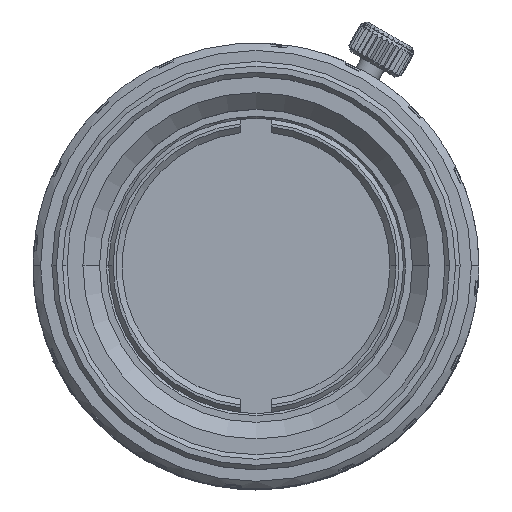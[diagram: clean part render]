
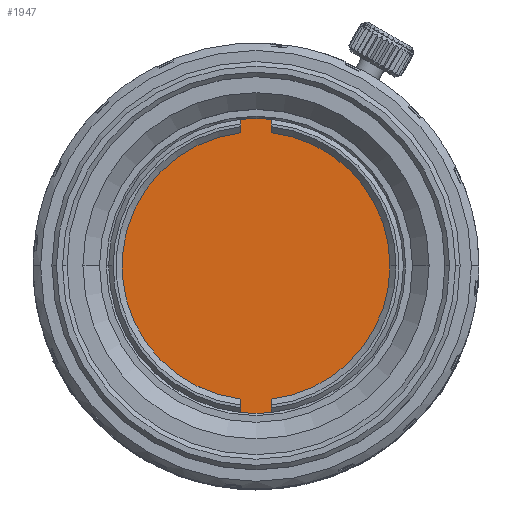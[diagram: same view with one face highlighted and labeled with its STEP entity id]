
A CAD part, top view. The second image highlights one B-rep face of the part: STEP entity #1947.
In plain terms, the highlighted planar face has unit normal (0, 0, 1).
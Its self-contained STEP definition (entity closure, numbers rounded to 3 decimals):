
#31 = CIRCLE ( 'NONE', #1134, 9.745 ) ;
#628 = VERTEX_POINT ( 'NONE', #19634 ) ;
#1134 = AXIS2_PLACEMENT_3D ( 'NONE', #12131, #26912, #14290 ) ;
#1154 = CARTESIAN_POINT ( 'NONE',  ( -1., -8.807, 59.484 ) ) ;
#1947 = ADVANCED_FACE ( 'NONE', ( #25048 ), #9934, .T. ) ;
#2133 = LINE ( 'NONE', #26476, #13768 ) ;
#2199 = CARTESIAN_POINT ( 'NONE',  ( -1., 9.694, 59.484 ) ) ;
#2550 = EDGE_CURVE ( 'NONE', #628, #27368, #10705, .T. ) ;
#2774 = DIRECTION ( 'NONE',  ( 0., -1., 0. ) ) ;
#2784 = VERTEX_POINT ( 'NONE', #6970 ) ;
#2990 = CARTESIAN_POINT ( 'NONE',  ( -1., -9.694, 59.484 ) ) ;
#3333 = VERTEX_POINT ( 'NONE', #2199 ) ;
#3922 = CARTESIAN_POINT ( 'NONE',  ( 0., 0., 59.484 ) ) ;
#4958 = CARTESIAN_POINT ( 'NONE',  ( 1., 0., 59.484 ) ) ;
#5304 = CIRCLE ( 'NONE', #18728, 9.745 ) ;
#5750 = CARTESIAN_POINT ( 'NONE',  ( 1., 0., 59.484 ) ) ;
#6132 = DIRECTION ( 'NONE',  ( 1., 0., 0. ) ) ;
#6443 = CARTESIAN_POINT ( 'NONE',  ( 0., 0., 59.484 ) ) ;
#6970 = CARTESIAN_POINT ( 'NONE',  ( -1., 8.807, 59.484 ) ) ;
#7088 = CARTESIAN_POINT ( 'NONE',  ( 1., 8.807, 59.484 ) ) ;
#7309 = DIRECTION ( 'NONE',  ( 0., 0., 1. ) ) ;
#8164 = EDGE_CURVE ( 'NONE', #3333, #2784, #2133, .T. ) ;
#8661 = DIRECTION ( 'NONE',  ( 1., 0., 0. ) ) ;
#9177 = ORIENTED_EDGE ( 'NONE', *, *, #22542, .T. ) ;
#9361 = LINE ( 'NONE', #17908, #13057 ) ;
#9934 = PLANE ( 'NONE',  #13336 ) ;
#10173 = DIRECTION ( 'NONE',  ( 0., 1., 0. ) ) ;
#10206 = CARTESIAN_POINT ( 'NONE',  ( 0., 0., 59.484 ) ) ;
#10705 = CIRCLE ( 'NONE', #12640, 8.863 ) ;
#11000 = DIRECTION ( 'NONE',  ( 0., 0., 1. ) ) ;
#11368 = ORIENTED_EDGE ( 'NONE', *, *, #2550, .T. ) ;
#12131 = CARTESIAN_POINT ( 'NONE',  ( 0., 0., 59.484 ) ) ;
#12392 = DIRECTION ( 'NONE',  ( 1., 0., 0. ) ) ;
#12640 = AXIS2_PLACEMENT_3D ( 'NONE', #20107, #7309, #22211 ) ;
#12664 = ORIENTED_EDGE ( 'NONE', *, *, #14551, .T. ) ;
#13057 = VECTOR ( 'NONE', #2774, 1000. ) ;
#13336 = AXIS2_PLACEMENT_3D ( 'NONE', #10206, #25038, #12392 ) ;
#13768 = VECTOR ( 'NONE', #13825, 1000. ) ;
#13825 = DIRECTION ( 'NONE',  ( 0., -1., 0. ) ) ;
#13858 = ORIENTED_EDGE ( 'NONE', *, *, #27765, .T. ) ;
#14078 = ORIENTED_EDGE ( 'NONE', *, *, #21191, .T. ) ;
#14290 = DIRECTION ( 'NONE',  ( 1., 0., 0. ) ) ;
#14456 = VERTEX_POINT ( 'NONE', #16562 ) ;
#14470 = CARTESIAN_POINT ( 'NONE',  ( 1., -9.694, 59.484 ) ) ;
#14551 = EDGE_CURVE ( 'NONE', #2784, #20777, #18493, .T. ) ;
#14595 = CIRCLE ( 'NONE', #26440, 8.863 ) ;
#14850 = VECTOR ( 'NONE', #10173, 1000. ) ;
#15310 = AXIS2_PLACEMENT_3D ( 'NONE', #3922, #19007, #6132 ) ;
#15438 = VERTEX_POINT ( 'NONE', #25726 ) ;
#15728 = EDGE_CURVE ( 'NONE', #14456, #3333, #31, .T. ) ;
#16562 = CARTESIAN_POINT ( 'NONE',  ( 1., 9.694, 59.484 ) ) ;
#16810 = LINE ( 'NONE', #4958, #22377 ) ;
#17893 = DIRECTION ( 'NONE',  ( 0., 1., 0. ) ) ;
#17908 = CARTESIAN_POINT ( 'NONE',  ( -1., 0., 59.484 ) ) ;
#18493 = CIRCLE ( 'NONE', #15310, 8.863 ) ;
#18728 = AXIS2_PLACEMENT_3D ( 'NONE', #23685, #11000, #25839 ) ;
#19007 = DIRECTION ( 'NONE',  ( 0., 0., 1. ) ) ;
#19634 = CARTESIAN_POINT ( 'NONE',  ( 8.863, 0., 59.484 ) ) ;
#19755 = ORIENTED_EDGE ( 'NONE', *, *, #25063, .T. ) ;
#20107 = CARTESIAN_POINT ( 'NONE',  ( 0., 0., 59.484 ) ) ;
#20459 = LINE ( 'NONE', #5750, #14850 ) ;
#20491 = EDGE_CURVE ( 'NONE', #27368, #14456, #16810, .T. ) ;
#20777 = VERTEX_POINT ( 'NONE', #1154 ) ;
#21191 = EDGE_CURVE ( 'NONE', #20777, #22372, #9361, .T. ) ;
#21214 = EDGE_LOOP ( 'NONE', ( #12664, #14078, #9177, #19755, #13858, #11368, #23982, #25138, #27112 ) ) ;
#21426 = DIRECTION ( 'NONE',  ( 0., 0., 1. ) ) ;
#22211 = DIRECTION ( 'NONE',  ( 1., 0., 0. ) ) ;
#22372 = VERTEX_POINT ( 'NONE', #2990 ) ;
#22377 = VECTOR ( 'NONE', #17893, 1000. ) ;
#22542 = EDGE_CURVE ( 'NONE', #22372, #26987, #5304, .T. ) ;
#23685 = CARTESIAN_POINT ( 'NONE',  ( 0., 0., 59.484 ) ) ;
#23982 = ORIENTED_EDGE ( 'NONE', *, *, #20491, .T. ) ;
#25038 = DIRECTION ( 'NONE',  ( 0., 0., 1. ) ) ;
#25048 = FACE_OUTER_BOUND ( 'NONE', #21214, .T. ) ;
#25063 = EDGE_CURVE ( 'NONE', #26987, #15438, #20459, .T. ) ;
#25138 = ORIENTED_EDGE ( 'NONE', *, *, #15728, .T. ) ;
#25726 = CARTESIAN_POINT ( 'NONE',  ( 1., -8.807, 59.484 ) ) ;
#25839 = DIRECTION ( 'NONE',  ( 1., 0., 0. ) ) ;
#26440 = AXIS2_PLACEMENT_3D ( 'NONE', #6443, #21426, #8661 ) ;
#26476 = CARTESIAN_POINT ( 'NONE',  ( -1., -15.207, 59.484 ) ) ;
#26912 = DIRECTION ( 'NONE',  ( 0., 0., 1. ) ) ;
#26987 = VERTEX_POINT ( 'NONE', #14470 ) ;
#27112 = ORIENTED_EDGE ( 'NONE', *, *, #8164, .T. ) ;
#27368 = VERTEX_POINT ( 'NONE', #7088 ) ;
#27765 = EDGE_CURVE ( 'NONE', #15438, #628, #14595, .T. ) ;
